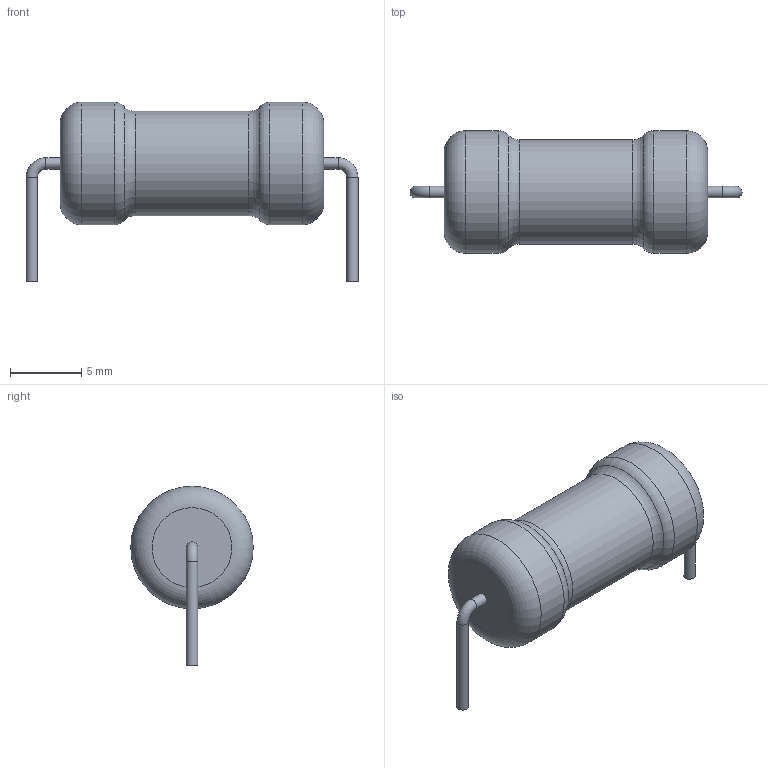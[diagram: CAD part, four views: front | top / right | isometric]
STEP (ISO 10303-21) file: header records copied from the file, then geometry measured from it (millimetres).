
FILE_DESCRIPTION(('STEP AP203'), '1');
FILE_NAME('ﾑ2-29ﾂ-1-ﾍ(1)', '', ('UNSPECIFIED'), ('UNSPECIFIED'), 'ASCON STEP Converter 1.6', 'ASCON Math Kernel', '');
FILE_SCHEMA(('CONFIG_CONTROL_DESIGN'));
Length unit declared in the file: millimetre
Bounding box: 23.3 x 8.6 x 12.6 mm (x, y, z)
Volume: 908.3 mm3; surface area: 599.7 mm2
Topology: 1 solids, 1 shells, 19 faces, 33 edges, 18 vertices
Faces by surface type: torus 8, cylinder 7, plane 4
Full cylindrical faces by diameter (mm): 0.8 x4, 7.318 x1, 8.6 x2
Entity records: 570 total; most frequent: DIRECTION 76, CARTESIAN_POINT 56, AXIS2_PLACEMENT_3D 38, EDGE_LOOP 36, ORIENTED_EDGE 36, FACE_OUTER_BOUND 30, COLOUR_RGB 20, FILL_AREA_STYLE_COLOUR 20
